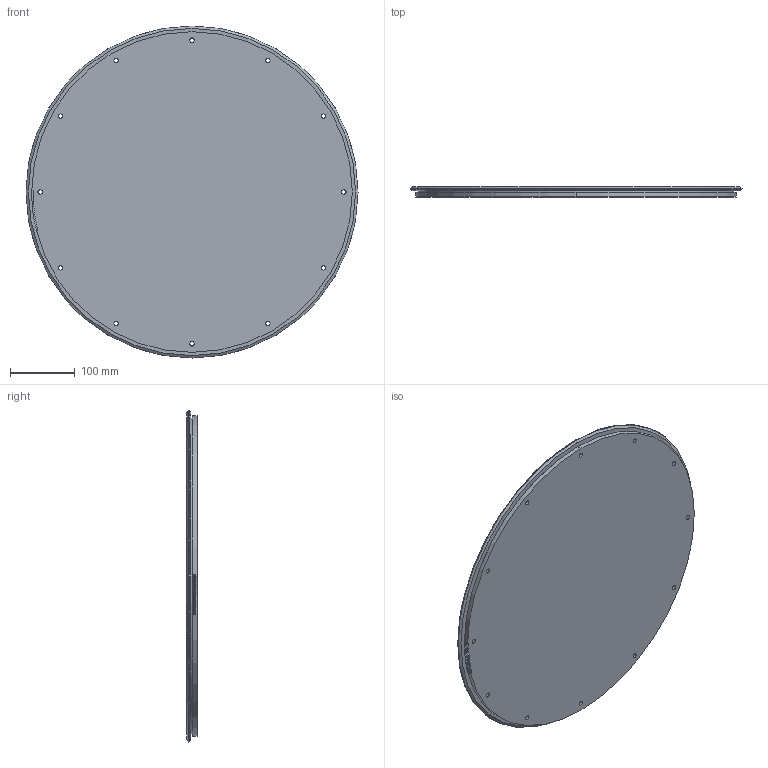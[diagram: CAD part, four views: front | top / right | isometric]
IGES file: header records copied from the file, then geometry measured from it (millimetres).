
Start section: 3D InterOp IGES (v. 2020 1.0.1), Spatial Corp. Copyright (c) 1999-2017.
Global section: file name: rd44_468_p.igs; native system: Spatial Corp.; preprocessor: 3D InterOp ACIS/IGES; author: TraceParts; organization: TraceParts S.A.; date: 20220624.041920; units: millimetre
Bounding box: 511.61 x 15.5 x 511.61 mm (x, y, z)
Surface area: 444565.7 mm2 (no closed solid volume)
Topology: 0 solids, 0 shells, 179 faces, 966 edges, 966 vertices
Faces by surface type: extrusion 118, revolution 61
